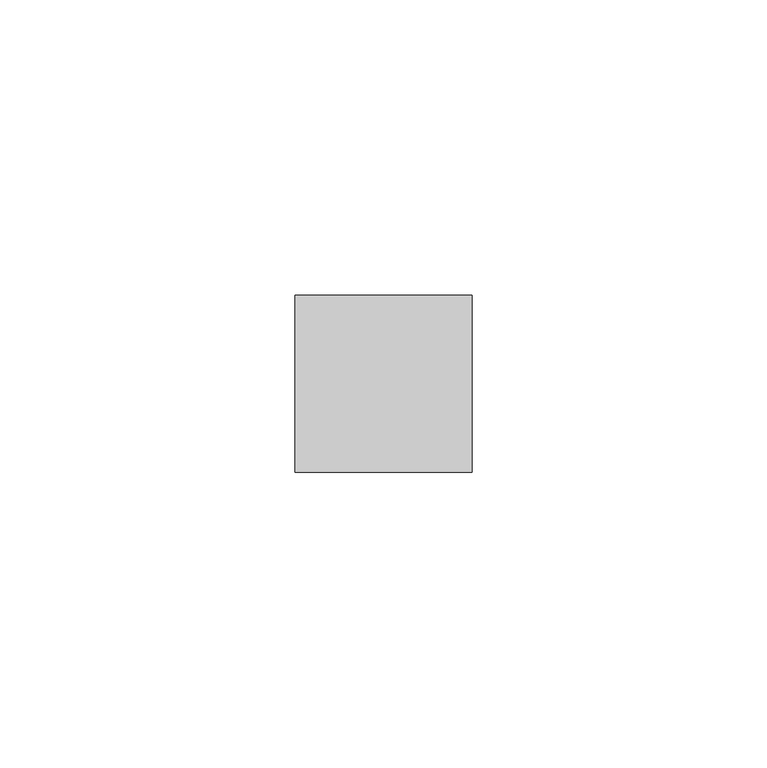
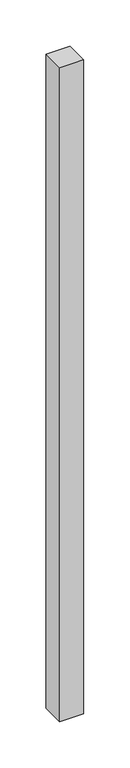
"""IFC4 building model written with IfcOpenShell, lengths in millimetres: member geometry, 矩形竖梃 : 30mm 正方形."""

from ifc_helpers import new_model, si_unit, frame, origin, place, context, project, spatial, polyline, outline, extrude, source, transform, mapped, element, save


def member_1f987d58(model_context):
    return source(origin(), model_context, "Body", "SweptSolid", [
        extrude(outline(polyline([(15.0, 15.0), (15.0, -15.0), (-15.0, -15.0), (-15.0, 15.0), (15.0, 15.0)])), frame((0.0, 0.0, -865.0), z_axis=(0.0, 0.0, 1.0), x_axis=(1.0, 0.0, 0.0)), (0.0, 0.0, 1.0), 865.0),
    ])


if __name__ == "__main__":
    model = new_model("IFC4")
    model_context = context("Model", 3, world=origin())
    ifc_project = project(units=[si_unit("LENGTHUNIT", "METRE", prefix="MILLI")], contexts=[model_context])
    site = spatial("IfcSite", under=ifc_project)
    building = spatial("IfcBuilding", under=site)
    placement = place(None, origin())
    member_shape = member_1f987d58(model_context)
    element("IfcMember", 1, ObjectType="矩形竖梃 : 30mm 正方形", at=placement, inside=building, context=model_context, shape_type="MappedRepresentation", body=[
        mapped(member_shape, transform((0.0, 0.0, 0.0), x_axis=(1.0, 0.0, 0.0), y_axis=(0.0, 1.0, 0.0), z_axis=(0.0, 0.0, 1.0))),
    ])
    save(model, "model.ifc")
